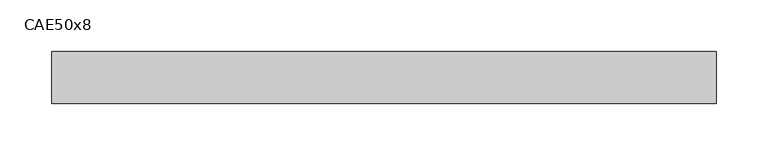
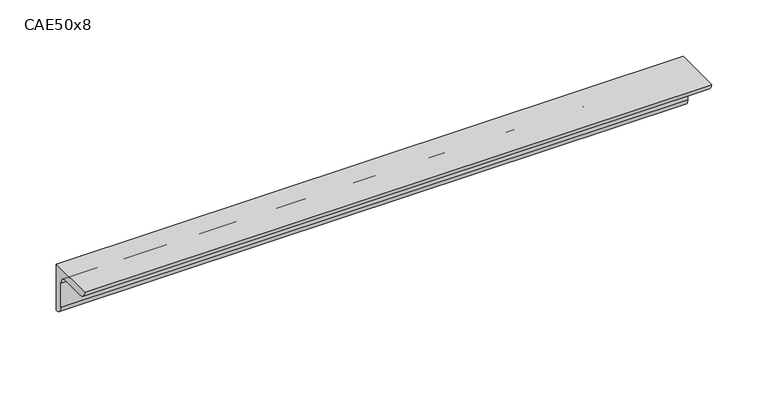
"""IFC4 building model written with IfcOpenShell, lengths in millimetres: beam geometry, L-Cornières : CAE50x8."""

from ifc_helpers import new_model, si_unit, point, frame, frame_2d, origin, place, context, project, spatial, polyline, circle_curve, trimmed, segment, composite_curve, outline, extrude, source, transform, mapped, element, save


def cae50x8_1a433e9d(model_context):
    return source(origin(), model_context, "Body", "SweptSolid", [
        extrude(outline(composite_curve([segment(polyline([(15.2, 15.2), (15.2, -34.8)]), True, "CONTINUOUS"), segment(trimmed(circle_curve(frame_2d((15.2, -26.8)), 8.0), [point((15.2, -34.8))], [point((7.2, -26.8))], False, "CARTESIAN"), True, "CONTINUOUS"), segment(polyline([(7.2, -26.8), (7.2, -0.8)]), True, "CONTINUOUS"), segment(trimmed(circle_curve(frame_2d((-0.8, -0.8)), 8.0), [point((7.2, -0.8))], [point((-0.8, 7.2))], True, "CARTESIAN"), True, "CONTINUOUS"), segment(polyline([(-0.8, 7.2), (-26.8, 7.2)]), True, "CONTINUOUS"), segment(trimmed(circle_curve(frame_2d((-26.8, 15.2)), 8.0), [point((-26.8, 7.2))], [point((-34.8, 15.2))], False, "CARTESIAN"), True, "CONTINUOUS"), segment(polyline([(-34.8, 15.2), (15.2, 15.2)]), True, "CONTINUOUS")], self_intersect=False)), frame((-322.0, 0.0, 0.0), z_axis=(1.0, 0.0, 0.0), x_axis=(0.0, 1.0, 0.0)), (0.0, 0.0, 1.0), 641.0),
    ])


if __name__ == "__main__":
    model = new_model("IFC4")
    model_context = context("Model", 3, world=origin())
    ifc_project = project(units=[si_unit("LENGTHUNIT", "METRE", prefix="MILLI")], contexts=[model_context])
    site = spatial("IfcSite", under=ifc_project)
    building = spatial("IfcBuilding", under=site)
    placement = place(None, origin())
    cae50x8_shape = cae50x8_1a433e9d(model_context)
    element("IfcBeam", 1, ObjectType="L-Cornières : CAE50x8", at=placement, inside=building, context=model_context, shape_type="MappedRepresentation", body=[
        mapped(cae50x8_shape, transform((0.0, 0.0, 0.0), x_axis=(1.0, 0.0, 0.0), y_axis=(0.0, 1.0, 0.0), z_axis=(0.0, 0.0, 1.0))),
    ])
    save(model, "model.ifc")
